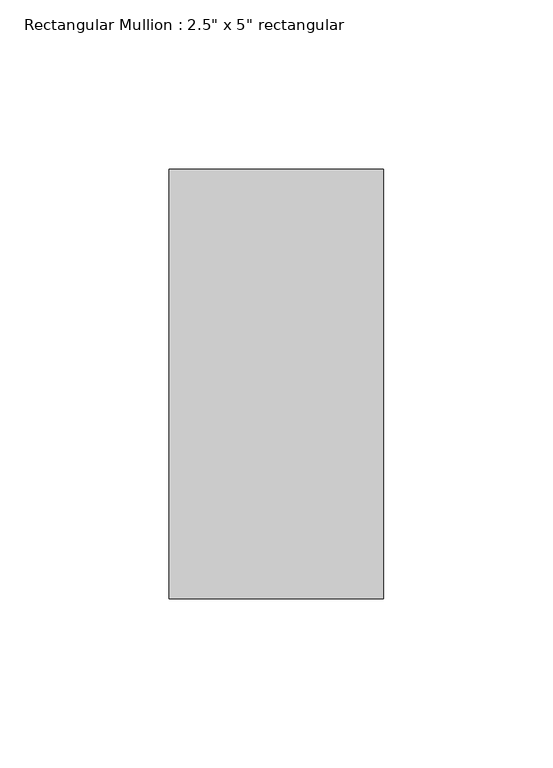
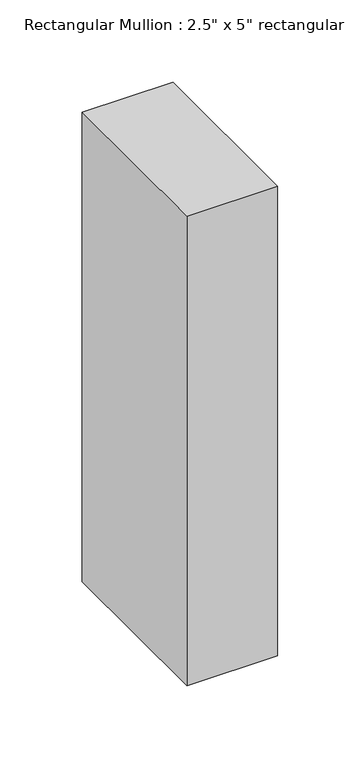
"""IFC4 building model written with IfcOpenShell, lengths in millimetres: member geometry."""

from ifc_helpers import new_model, si_unit, frame, origin, place, context, project, spatial, polyline, outline, extrude, source, transform, mapped, element, save


def member_9c90f9a7(model_context):
    return source(origin(), model_context, "Body", "SweptSolid", [
        extrude(outline(polyline([(0.0, 63.5), (0.0, -63.5), (-63.5, -63.5), (-63.5, 63.5), (0.0, 63.5)])), frame((0.0, 0.0, -347.4357143), z_axis=(0.0, 0.0, 1.0), x_axis=(1.0, 0.0, 0.0)), (0.0, 0.0, 1.0), 347.4357143),
    ])


if __name__ == "__main__":
    model = new_model("IFC4")
    model_context = context("Model", 3, world=origin())
    ifc_project = project(units=[si_unit("LENGTHUNIT", "METRE", prefix="MILLI")], contexts=[model_context])
    site = spatial("IfcSite", under=ifc_project)
    building = spatial("IfcBuilding", under=site)
    placement = place(None, origin())
    member_shape = member_9c90f9a7(model_context)
    element("IfcMember", 1, ObjectType="Rectangular Mullion : 2.5\" x 5\" rectangular", at=placement, inside=building, context=model_context, shape_type="MappedRepresentation", body=[
        mapped(member_shape, transform((0.0, 0.0, 0.0), x_axis=(1.0, 0.0, 0.0), y_axis=(0.0, 1.0, 0.0), z_axis=(0.0, 0.0, 1.0))),
    ])
    save(model, "model.ifc")
